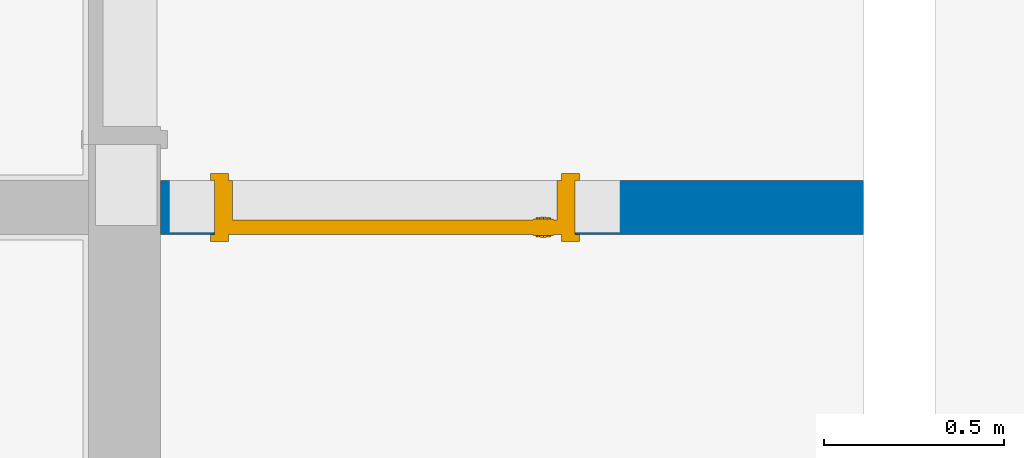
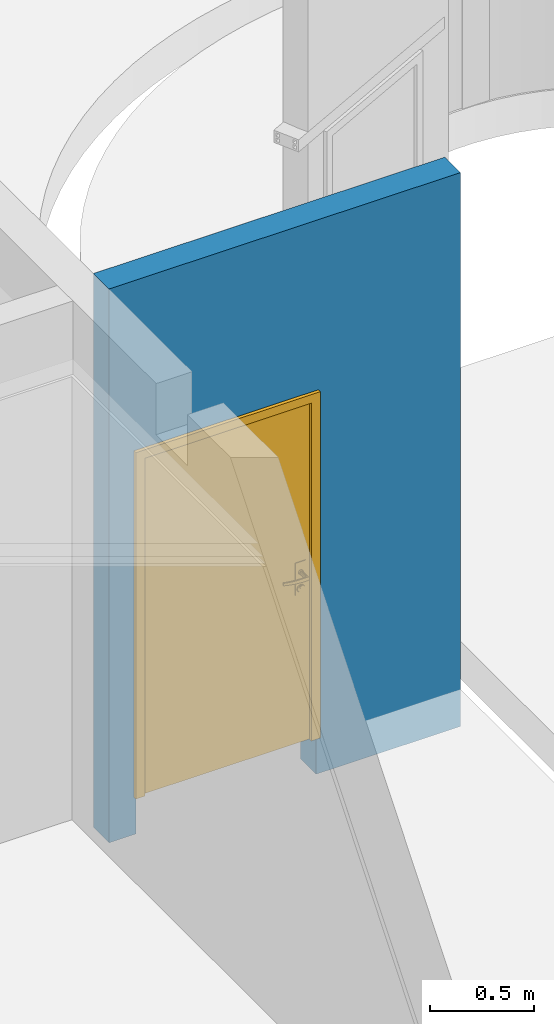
# One storey, part 14 of 21: 1 door, 1 wall, 1 opening.
"""IFC4 building model written with IfcOpenShell, lengths in millimetres."""

from ifc_helpers import new_model, entity, si_unit, converted_unit, derived_unit, direction, frame, origin_with_axes, place, context, subcontext, project, spatial, polygons, material, constituent, constituent_set, type_object, element, fill, save


model = new_model("IFC4")

# Units and contexts
model_context = context("Model", 3, precision=0.01, world=origin_with_axes(), true_north=direction((0.0, 1.0)))
body_context = subcontext(model_context, "Body", "Model", "MODEL_VIEW")
ifc_project = project(units=[si_unit("LENGTHUNIT", "METRE", prefix="MILLI"), si_unit("AREAUNIT", "SQUARE_METRE"), si_unit("VOLUMEUNIT", "CUBIC_METRE"), converted_unit("PLANEANGLEUNIT", "DEGREE", entity("IfcPlaneAngleMeasure", 0.0174532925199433), si_unit("PLANEANGLEUNIT", "RADIAN"), dimensions=[0, 0, 0, 0, 0, 0, 0]), converted_unit("TIMEUNIT", "Year", entity("IfcTimeMeasure", 31557600.0), si_unit("TIMEUNIT", "SECOND"), dimensions=[0, 0, 1, 0, 0, 0, 0]), si_unit("MASSUNIT", "GRAM", prefix="KILO"), si_unit("THERMODYNAMICTEMPERATUREUNIT", "DEGREE_CELSIUS"), si_unit("LUMINOUSINTENSITYUNIT", "LUMEN"), si_unit("ENERGYUNIT", "JOULE", prefix="MEGA"), derived_unit("THERMALCONDUCTANCEUNIT", [(si_unit("POWERUNIT", "WATT"), 1), (si_unit("LENGTHUNIT", "METRE"), -1), (si_unit("THERMODYNAMICTEMPERATUREUNIT", "KELVIN"), -1)]), derived_unit("SPECIFICHEATCAPACITYUNIT", [(si_unit("ENERGYUNIT", "JOULE"), 1), (si_unit("MASSUNIT", "GRAM", prefix="KILO"), -1), (si_unit("THERMODYNAMICTEMPERATUREUNIT", "KELVIN"), -1)]), derived_unit("MASSDENSITYUNIT", [(si_unit("MASSUNIT", "GRAM", prefix="KILO"), 1), (si_unit("VOLUMEUNIT", "CUBIC_METRE"), -1)])], contexts=[model_context])

# Site, building, storey
site_placement = place(None, origin_with_axes())
site = spatial("IfcSite", under=ifc_project, at=site_placement, Name="Exteriér", CompositionType="ELEMENT")
building_placement = place(site_placement, origin_with_axes())
building = spatial("IfcBuilding", under=site, at=building_placement, Name="Univerzitní lezecké centrum", CompositionType="ELEMENT")
storey_placement = place(building_placement, frame((0.0, 0.0, -3350.0), z_axis=(0.0, 0.0, 1.0), x_axis=(1.0, 0.0, 0.0)))
storey = spatial("IfcBuildingStorey", under=building, at=storey_placement, Name="1.PP", CompositionType="ELEMENT", Elevation=-3350.0)

# Wall, opening, door
ifc_material = material(Name="Keramické tvárnice nenosné tl. 150 mm")
ifc_constituent = constituent(ifc_material, Name="Keramické tvárnice nenosné tl. 150 mm")
ifc_constituent_set = constituent_set(constituents=[ifc_constituent], Name="!Vnitřní keramická stěna 150 mm - nenosná")
wall_type = type_object("IfcWallType", Name="!Vnitřní keramická stěna 150 mm - nenosná 150", PredefinedType="NOTDEFINED")
wall_placement = place(storey_placement, frame((-1950.408868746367, 949.9999999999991, -220.0000000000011), z_axis=(0.0, 0.0, 1.0), x_axis=(1.0, 0.0, 0.0)))
wall = element("IfcWall", 1, at=wall_placement, inside=storey, type_object=wall_type, material=ifc_constituent_set, Name="St07", PredefinedType="NOTDEFINED", context=body_context, shape_type="Tessellation", body=[
    polygons([(150.000062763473, -150.0000053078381, 0.500000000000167), (150.000062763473, -4.451118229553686e-05, 0.500000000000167), (150.0000000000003, 0.0, 220.0000000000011), (150.0000000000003, -149.9999999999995, 220.0000000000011), (150.000062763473, -4.451118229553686e-05, 0.0), (150.000062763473, -150.0000053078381, 0.0), (1149.999990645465, -4.451118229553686e-05, 0.0), (1149.999990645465, -4.451118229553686e-05, 0.500000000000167), (1150.0, 0.0, 220.0000000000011), (1150.0, 0.0, 2240.000000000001), (150.0000000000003, 0.0, 2240.000000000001), (0.0, 0.0, 0.0), (0.0, 0.0, 3250.0), (1950.16100486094, 0.0, 3250.0), (1950.16100486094, 0.0, 0.0), (25.00000000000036, 0.0, 2321.0), (25.00000000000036, 0.0, 2250.000000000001), (1275.0, 0.0, 2250.000000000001), (1275.0, 0.0, 2321.0), (150.0000000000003, -149.9999999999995, 2240.000000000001), (1149.999990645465, -150.0000053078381, 0.500000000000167), (1149.999990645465, -150.0000053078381, 0.0), (1950.16100486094, -149.9999999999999, 0.0), (1950.16100486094, -149.9999999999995, 3250.0), (0.0, -149.9999999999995, 3250.0), (0.0, -149.9999999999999, 0.0), (1150.0, -149.9999999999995, 2240.000000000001), (1150.0, -150.0000000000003, 220.0000000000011), (25.00000000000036, -144.274998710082, 2321.0), (25.00000000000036, -144.274998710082, 2250.000000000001), (25.00000000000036, -11.4424999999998, 2280.499637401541), (25.00000000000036, -11.4424999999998, 2260.499637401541), (25.00000000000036, -33.33249999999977, 2260.499637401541), (25.00000000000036, -33.33249999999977, 2280.499637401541), (25.00000000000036, -11.4424999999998, 2310.500000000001), (25.00000000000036, -11.4424999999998, 2290.5), (25.00000000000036, -33.33249999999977, 2290.5), (25.00000000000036, -33.33249999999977, 2310.500000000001), (25.00000000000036, -110.9413637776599, 2260.499637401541), (25.00000000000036, -132.8313637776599, 2260.499637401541), (25.00000000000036, -132.8313637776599, 2280.499637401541), (25.00000000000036, -110.9413637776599, 2280.499637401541), (25.00000000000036, -132.8313637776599, 2310.500000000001), (25.00000000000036, -110.9413637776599, 2310.500000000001), (25.00000000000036, -110.9413637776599, 2290.5), (25.00000000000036, -132.8313637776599, 2290.5), (1275.0, -144.274998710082, 2250.000000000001), (1275.0, -144.274998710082, 2321.0), (1275.0, -33.33250000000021, 2260.499637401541), (1275.0, -11.44250000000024, 2260.499637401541), (1275.0, -11.44250000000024, 2280.499637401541), (1275.0, -33.33250000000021, 2280.499637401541), (1275.0, -33.33250000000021, 2290.5), (1275.0, -11.44250000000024, 2290.5), (1275.0, -11.44250000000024, 2310.500000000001), (1275.0, -33.33250000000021, 2310.500000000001), (1275.0, -132.8313637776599, 2280.499637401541), (1275.0, -132.8313637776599, 2260.499637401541), (1275.0, -110.9413637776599, 2260.499637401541), (1275.0, -110.9413637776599, 2280.499637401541), (1275.0, -110.9413637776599, 2290.5), (1275.0, -110.9413637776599, 2310.500000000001), (1275.0, -132.8313637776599, 2310.500000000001), (1275.0, -132.8313637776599, 2290.5)], [[[1, 2, 3, 4]], [[5, 2, 1, 6]], [[7, 8, 9, 10, 11, 3, 2, 5, 12, 13, 14, 15], [16, 17, 18, 19]], [[20, 4, 3, 11]], [[21, 22, 23, 24, 25, 26, 6, 1, 4, 20, 27, 28]], [[5, 6, 26, 12]], [[21, 8, 7, 22]], [[8, 21, 28, 9]], [[28, 27, 10, 9]], [[27, 20, 11, 10]], [[12, 26, 25, 13]], [[24, 14, 13, 25]], [[15, 14, 24, 23]], [[22, 7, 15, 23]], [[16, 29, 30, 17], [31, 32, 33, 34], [35, 36, 37, 38], [39, 40, 41, 42], [43, 44, 45, 46]], [[47, 18, 17, 30]], [[48, 19, 18, 47], [49, 50, 51, 52], [53, 54, 55, 56], [57, 58, 59, 60], [61, 62, 63, 64]], [[48, 29, 16, 19]], [[48, 47, 30, 29]], [[51, 50, 32, 31]], [[50, 49, 33, 32]], [[49, 52, 34, 33]], [[52, 51, 31, 34]], [[55, 54, 36, 35]], [[54, 53, 37, 36]], [[53, 56, 38, 37]], [[56, 55, 35, 38]], [[59, 58, 40, 39]], [[58, 57, 41, 40]], [[57, 60, 42, 41]], [[60, 59, 39, 42]], [[63, 62, 44, 43]], [[62, 61, 45, 44]], [[61, 64, 46, 45]], [[64, 63, 43, 46]]], closed=True),
])
opening_placement = place(wall_placement, frame((650.0000000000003, 0.0, 220.0000000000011), z_axis=(0.0, 0.0, 1.0), x_axis=(1.0, 0.0, 0.0)))
opening = element("IfcOpeningElement", 2, at=opening_placement, cuts=wall, Name="D07", context=body_context, identifier="Reference", shape_type="Tessellation", body=[
    polygons([(-500.0, 1.000000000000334, 2020.0), (500.0, 1.000000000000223, 2020.0), (500.0, 1.000000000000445, 0.0), (-500.0000000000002, 1.000000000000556, 0.0), (-512.0, 1.000000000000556, 0.0), (-512.0, 1.000000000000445, 2032.0), (512.0, 1.000000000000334, 2032.0), (512.0, 1.000000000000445, 0.0), (-500.0, 0.0, 0.0), (500.0, 0.0, 0.0), (500.0, -150.0000000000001, 0.0), (500.0000000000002, -151.0000000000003, 0.0), (-500.0, -151.0, 0.0), (-500.0, -149.9999999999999, 0.0), (-512.0, 0.0, 0.0), (-512.0, 0.0, 2032.0), (512.0, 0.0, 2032.0), (512.0, 0.0, 0.0), (500.0, 0.0, 2020.0), (500.0, -150.0000000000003, 2020.0), (512.0, -150.0000000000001, 0.0), (512.0, -151.0000000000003, 0.0), (512.0, -151.0000000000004, 2032.0), (-512.0, -151.0000000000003, 2032.0), (-512.0, -151.0, 0.0), (-512.0, -149.9999999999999, 0.0), (-500.0, 0.0, 2020.0), (-500.0, -150.0000000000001, 2020.0), (-512.0, -150.0000000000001, 2032.0), (512.0, -150.0000000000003, 2032.0)], [[[1, 2, 3, 4]], [[3, 2, 1, 4, 5, 6, 7, 8]], [[9, 4, 3, 10, 11, 12, 13, 14]], [[4, 9, 15, 5]], [[15, 16, 6, 5]], [[16, 17, 7, 6]], [[17, 18, 8, 7]], [[10, 3, 8, 18]], [[10, 19, 20, 11]], [[12, 11, 21, 22]], [[13, 12, 22, 23, 24, 25]], [[14, 13, 25, 26]], [[27, 9, 14, 28]], [[27, 19, 10, 18, 17, 16, 15, 9]], [[19, 27, 28, 20]], [[11, 20, 28, 14, 26, 29, 30, 21]], [[21, 30, 23, 22]], [[30, 29, 24, 23]], [[29, 26, 25, 24]]], closed=True),
])
door_type = type_object("IfcDoorType", Name="Dveře 24", OperationType="SINGLE_SWING_RIGHT", PredefinedType="NOTDEFINED")
door_placement = place(opening_placement, frame((449.9999999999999, 0.0, 0.0), z_axis=(0.0, 0.0, 1.0), x_axis=(-1.0, 0.0, 0.0)))
door = element("IfcDoor", 3, at=door_placement, inside=storey, type_object=door_type, Name="D07", OverallHeight=2020.0, OverallWidth=1000.0, PredefinedType="NOTDEFINED", context=body_context, shape_type="Tessellation", body=[
    polygons([(-11.99999999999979, 0.0, 0.0), (-11.99999999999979, -19.00000000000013, 0.0), (-62.00000000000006, -19.00000000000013, 0.0), (-62.00000000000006, 0.0, 0.0), (-11.99999999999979, 0.0, 1982.0), (-11.99999999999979, -18.99999999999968, 1982.0), (-62.00000000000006, -18.99999999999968, 2032.0), (-62.00000000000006, 0.0, 2032.0)], [[[1, 2, 3, 4]], [[5, 6, 2, 1]], [[6, 7, 3, 2]], [[4, 3, 7, 8]], [[5, 1, 4, 8]], [[8, 7, 6, 5]]], closed=True),
    polygons([(911.9999999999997, 0.0, 1982.0), (911.9999999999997, -19.00000000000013, 1982.0), (962.0000000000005, -19.00000000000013, 2032.0), (962.0000000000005, 0.0, 2032.0), (911.9999999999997, 0.0, 0.0), (911.9999999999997, -19.00000000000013, 0.0), (962.0000000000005, -19.00000000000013, 0.0), (962.0000000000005, 0.0, 0.0)], [[[1, 2, 3, 4]], [[5, 6, 2, 1]], [[6, 7, 3, 2]], [[4, 3, 7, 8]], [[5, 1, 4, 8]], [[8, 7, 6, 5]]], closed=True),
    polygons([(-62.00000000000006, 150.0000000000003, 0.0), (-62.00000000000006, 169.0, 0.0), (-11.99999999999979, 169.0, 0.0), (-11.99999999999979, 150.0000000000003, 0.0), (-62.00000000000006, 150.0000000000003, 2032.0), (-62.00000000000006, 169.0000000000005, 2032.0), (-11.99999999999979, 169.0, 1982.0), (-11.99999999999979, 150.0000000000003, 1982.0)], [[[1, 2, 3, 4]], [[5, 6, 2, 1]], [[3, 2, 6, 7]], [[4, 3, 7, 8]], [[5, 1, 4, 8]], [[8, 7, 6, 5]]], closed=True),
    polygons([(962.0000000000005, 150.0000000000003, 2032.0), (962.0000000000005, 169.0, 2032.0), (911.9999999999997, 169.0, 1982.0), (911.9999999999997, 150.0000000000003, 1982.0), (962.0000000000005, 149.9999999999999, 0.0), (962.0000000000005, 169.0, 0.0), (911.9999999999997, 169.0, 0.0), (911.9999999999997, 149.9999999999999, 0.0)], [[[1, 2, 3, 4]], [[5, 6, 2, 1]], [[3, 2, 6, 7]], [[4, 3, 7, 8]], [[5, 1, 4, 8]], [[8, 7, 6, 5]]], closed=True),
    polygons([(0.0, 0.0, 0.0), (0.0, 110.0000000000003, 0.0), (0.0, 109.9999999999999, 1970.0), (0.0, 0.0, 1970.0), (-11.99999999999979, 150.0000000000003, 0.0), (-11.99999999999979, 110.0000000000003, 0.0), (-50.00000000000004, 0.0, 0.0), (-50.00000000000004, 150.0000000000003, 0.0), (-11.99999999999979, 109.9999999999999, 1970.0), (-11.99999999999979, 149.9999999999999, 1970.0), (-50.00000000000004, 149.9999999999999, 1970.0), (-50.00000000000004, 0.0, 1970.0)], [[[1, 2, 3, 4]], [[5, 6, 2, 1, 7, 8]], [[6, 9, 3, 2]], [[3, 9, 10, 11, 12, 4]], [[7, 1, 4, 12]], [[5, 10, 9, 6]], [[11, 8, 7, 12]], [[11, 10, 5, 8]]], closed=True),
    polygons([(911.9999999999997, 149.9999999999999, 1970.0), (911.9999999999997, 109.9999999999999, 1970.0), (900.0000000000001, 109.9999999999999, 1970.0), (900.0000000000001, 0.0, 1970.0), (950.0, 0.0, 1970.0), (950.0, 149.9999999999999, 1970.0), (911.9999999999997, 109.9999999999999, 0.0), (911.9999999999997, 149.9999999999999, 0.0), (900.0000000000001, 109.9999999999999, 0.0), (900.0000000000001, 0.0, 0.0), (950.0, 0.0, 0.0), (950.0, 149.9999999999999, 0.0)], [[[1, 2, 3, 4, 5, 6]], [[7, 2, 1, 8]], [[9, 3, 2, 7]], [[4, 3, 9, 10]], [[11, 5, 4, 10]], [[12, 6, 5, 11]], [[12, 8, 1, 6]], [[9, 7, 8, 12, 11, 10]]], closed=True),
    polygons([(-11.99999999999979, 150.0000000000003, 0.0), (911.9999999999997, 149.9999999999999, 0.0), (911.9999999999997, 109.9999999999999, 0.0), (-11.99999999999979, 110.0000000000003, 0.0), (911.9999999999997, 149.9999999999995, 1982.0), (-11.99999999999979, 149.9999999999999, 1982.0), (911.9999999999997, 109.9999999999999, 1982.0), (-11.99999999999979, 109.9999999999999, 1982.0)], [[[1, 2, 3, 4]], [[5, 2, 1, 6]], [[2, 5, 7, 3]], [[4, 3, 7, 8]], [[6, 1, 4, 8]], [[5, 6, 8, 7]]], closed=True),
    polygons([(-12.00000000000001, -18.99999999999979, 1982.0), (-62.00000000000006, -18.99999999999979, 2032.0), (-62.00000000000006, 0.0, 2032.0), (-12.00000000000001, 0.0, 1982.0), (962.0, -18.99999999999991, 2032.0), (911.9999999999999, -18.99999999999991, 1982.0), (962.0, 0.0, 2032.0), (911.9999999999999, 0.0, 1982.0)], [[[1, 2, 3, 4]], [[5, 2, 1, 6]], [[2, 5, 7, 3]], [[4, 3, 7, 8]], [[6, 1, 4, 8]], [[5, 6, 8, 7]]], closed=True),
    polygons([(-62.00000000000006, 169.0000000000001, 2032.0), (-12.00000000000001, 169.0000000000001, 1982.0), (-12.00000000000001, 150.0000000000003, 1982.0), (-62.00000000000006, 150.0000000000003, 2032.0), (962.0, 169.0, 2032.0), (911.9999999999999, 169.0, 1982.0), (911.9999999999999, 150.0, 1982.0), (962.0, 150.0, 2032.0)], [[[1, 2, 3, 4]], [[1, 5, 6, 2]], [[2, 6, 7, 3]], [[4, 3, 7, 8]], [[5, 1, 4, 8]], [[6, 5, 8, 7]]], closed=True),
    polygons([(-12.00000000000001, 149.9999999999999, 1982.0), (-12.00000000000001, 149.9999999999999, 1970.0), (-50.00000000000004, 149.9999999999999, 1970.0), (-50.00000000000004, 149.9999999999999, 2020.0), (950.0, 149.9999999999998, 2020.0), (950.0, 149.9999999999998, 1970.0), (911.9999999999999, 149.9999999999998, 1970.0), (911.9999999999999, 149.9999999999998, 1982.0), (-12.00000000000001, 110.0, 1982.0), (-12.00000000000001, 110.0, 1970.0), (0.0, 110.0, 1970.0), (0.0, 0.0, 1970.0), (-50.00000000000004, 0.0, 1970.0), (-50.00000000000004, 0.0, 2020.0), (950.0, 0.0, 2020.0), (950.0, 0.0, 1970.0), (911.9999999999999, 109.9999999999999, 1970.0), (899.9999999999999, 0.0, 1970.0), (899.9999999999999, 109.9999999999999, 1970.0), (911.9999999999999, 109.9999999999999, 1982.0)], [[[1, 2, 3, 4, 5, 6, 7, 8]], [[2, 1, 9, 10]], [[10, 11, 12, 13, 3, 2]], [[3, 13, 14, 4]], [[4, 14, 15, 5]], [[5, 15, 16, 6]], [[17, 7, 6, 16, 18, 19]], [[8, 7, 17, 20]], [[1, 8, 20, 9]], [[17, 19, 11, 10, 9, 20]], [[11, 19, 18, 12]], [[18, 16, 15, 14, 13, 12]]], closed=True),
    polygons([(9.499999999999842, 110.0, 1060.0), (9.499999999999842, 107.0, 1060.0), (66.5, 107.0, 1060.0), (66.5, 110.0, 1060.0), (9.499999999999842, 110.0, 870.0000000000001), (9.499999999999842, 107.0, 870.0000000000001), (66.5, 107.0, 870.0000000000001), (66.5, 110.0, 870.0000000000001)], [[[1, 2, 3, 4]], [[5, 6, 2, 1]], [[2, 6, 7, 3]], [[4, 3, 7, 8]], [[1, 4, 8, 5]], [[8, 7, 6, 5]]], closed=True),
    polygons([(38.00000000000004, 46.00000000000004, 989.9999999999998), (38.00000000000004, 39.00000000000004, 989.9999999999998), (32.99999999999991, 39.00000000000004, 991.3397459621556), (32.99999999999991, 46.00000000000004, 991.3397459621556), (62.99999999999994, 46.00000000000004, 989.9999999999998), (62.99999999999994, 39.00000000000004, 989.9999999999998), (62.99999999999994, 39.00000000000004, 1010.0), (38.00000000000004, 39.00000000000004, 1010.0), (32.99999999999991, 39.00000000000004, 1008.660254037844), (29.3397459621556, 39.00000000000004, 1005.0), (28.00000000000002, 39.00000000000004, 1000.0), (29.3397459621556, 39.00000000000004, 995.0000000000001), (29.3397459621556, 46.00000000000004, 995.0000000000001), (28.00000000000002, 46.00000000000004, 1000.0), (29.3397459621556, 46.00000000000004, 1005.0), (32.99999999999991, 46.00000000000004, 1008.660254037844), (38.00000000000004, 46.00000000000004, 1010.0), (62.99999999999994, 46.00000000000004, 1010.0)], [[[1, 2, 3, 4]], [[5, 6, 2, 1]], [[2, 6, 7, 8, 9, 10, 11, 12, 3]], [[4, 3, 12, 13]], [[1, 4, 13, 14, 15, 16, 17, 18, 5]], [[18, 7, 6, 5]], [[17, 8, 7, 18]], [[16, 9, 8, 17]], [[15, 10, 9, 16]], [[14, 11, 10, 15]], [[13, 12, 11, 14]]], closed=True),
    polygons([(62.99999999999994, 46.00000000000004, 1010.0), (76.4039094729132, 39.00000000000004, 1009.607300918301), (76.0982828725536, 46.00000000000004, 1009.607300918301), (62.99999999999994, 39.00000000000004, 1010.0), (103.1097165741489, 41.33645537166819, 1008.821902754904), (76.0982828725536, 46.00000000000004, 990.3926990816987), (62.99999999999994, 46.00000000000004, 989.9999999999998), (62.99999999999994, 39.00000000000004, 989.9999999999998), (76.4039094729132, 39.00000000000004, 990.3926990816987), (103.1097165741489, 41.33645537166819, 991.1780972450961), (102.1951627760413, 48.28318114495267, 1008.821902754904), (102.1951627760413, 48.28318114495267, 991.1780972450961), (129.5102645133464, 45.99158427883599, 991.9634954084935), (129.5102645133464, 45.99158427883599, 1008.036504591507), (127.993743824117, 52.83216704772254, 1008.036504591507), (127.993743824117, 52.83216704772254, 991.9634954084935), (155.4046291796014, 52.92995837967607, 992.7488935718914), (155.4046291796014, 52.92995837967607, 1007.251106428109), (153.2976832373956, 59.61233717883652, 1007.251106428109), (153.2976832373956, 59.61233717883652, 992.7488935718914), (163.4612043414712, 55.86231192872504, 992.9999999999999), (163.4612043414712, 55.86231192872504, 1007.0), (161.1705579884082, 62.47782924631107, 1007.0), (161.1705579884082, 62.47782924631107, 992.9999999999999)], [[[1, 2, 3]], [[1, 4, 2]], [[3, 2, 5]], [[1, 3, 6, 7]], [[4, 8, 9, 2]], [[2, 9, 10, 5]], [[3, 5, 11]], [[3, 11, 12, 6]], [[6, 8, 7]], [[6, 9, 8]], [[12, 10, 9]], [[5, 10, 13, 14]], [[11, 5, 14]], [[11, 15, 16, 12]], [[12, 9, 6]], [[16, 10, 12]], [[16, 13, 10]], [[14, 13, 17, 18]], [[11, 14, 15]], [[15, 19, 20, 16]], [[20, 13, 16]], [[20, 17, 13]], [[18, 17, 21, 22]], [[15, 14, 18]], [[15, 18, 19]], [[19, 23, 24, 20]], [[24, 17, 20]], [[24, 21, 17]], [[23, 22, 21, 24]], [[19, 18, 22]], [[19, 22, 23]]], closed=False),
    polygons([(48.39230484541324, 96.99999999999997, 994.0000000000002), (49.25833024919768, 107.0, 993.5), (50.99999999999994, 107.0, 1000.0), (50.00000000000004, 96.99999999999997, 1000.0), (44.00000000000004, 96.99999999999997, 989.6076951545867), (44.49999999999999, 107.0, 988.741669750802), (38.00000000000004, 107.0, 987.0000000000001), (31.49999999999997, 107.0, 988.741669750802), (26.74166975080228, 107.0, 993.5), (24.99999999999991, 107.0, 1000.0), (26.74166975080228, 107.0, 1006.5), (31.49999999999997, 107.0, 1011.258330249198), (38.00000000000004, 107.0, 1013.0), (44.49999999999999, 107.0, 1011.258330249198), (49.25833024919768, 107.0, 1006.5), (48.39230484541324, 96.99999999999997, 1006.0), (44.00000000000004, 96.99999999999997, 1010.392304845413), (38.00000000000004, 96.99999999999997, 1012.0), (32.00000000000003, 96.99999999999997, 1010.392304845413), (27.60769515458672, 96.99999999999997, 1006.0), (26.00000000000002, 96.99999999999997, 1000.0), (27.60769515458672, 96.99999999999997, 994.0000000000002), (32.00000000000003, 96.99999999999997, 989.6076951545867), (38.00000000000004, 96.99999999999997, 988.0)], [[[1, 2, 3, 4]], [[5, 6, 2, 1]], [[3, 2, 6, 7, 8, 9, 10, 11, 12, 13, 14, 15]], [[4, 3, 15, 16]], [[4, 16, 17, 18, 19, 20, 21, 22, 23, 24, 5, 1]], [[24, 7, 6, 5]], [[23, 8, 7, 24]], [[22, 9, 8, 23]], [[21, 10, 9, 22]], [[20, 11, 10, 21]], [[19, 12, 11, 20]], [[18, 13, 12, 19]], [[17, 14, 13, 18]], [[16, 15, 14, 17]]], closed=True),
    polygons([(55.32050807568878, 103.0, 895.0), (57.05255888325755, 107.0, 894.0000000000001), (60.00000000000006, 107.0, 904.9999999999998), (58.00000000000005, 103.0, 904.9999999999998), (48.00000000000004, 103.0, 887.6794919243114), (48.99999999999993, 107.0, 885.9474411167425), (38.00000000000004, 107.0, 883.0), (26.99999999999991, 107.0, 885.9474411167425), (18.94744111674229, 107.0, 894.0000000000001), (16.00000000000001, 107.0, 904.9999999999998), (18.94744111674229, 107.0, 915.9999999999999), (26.99999999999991, 107.0, 924.0525588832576), (38.00000000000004, 107.0, 927.0), (48.99999999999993, 107.0, 924.0525588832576), (57.05255888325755, 107.0, 915.9999999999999), (55.32050807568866, 103.0, 915.0), (48.00000000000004, 103.0, 922.3205080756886), (38.00000000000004, 103.0, 925.0000000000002), (28.00000000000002, 103.0, 922.3205080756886), (20.67949192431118, 103.0, 915.0), (18.00000000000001, 103.0, 904.9999999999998), (20.67949192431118, 103.0, 895.0), (28.00000000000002, 103.0, 887.6794919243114), (38.00000000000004, 103.0, 885.0000000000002)], [[[1, 2, 3, 4]], [[5, 6, 2, 1]], [[3, 2, 6, 7, 8, 9, 10, 11, 12, 13, 14, 15]], [[4, 3, 15, 16]], [[4, 16, 17, 18, 19, 20, 21, 22, 23, 24, 5, 1]], [[24, 7, 6, 5]], [[23, 8, 7, 24]], [[22, 9, 8, 23]], [[21, 10, 9, 22]], [[20, 11, 10, 21]], [[19, 12, 11, 20]], [[18, 13, 12, 19]], [[17, 14, 13, 18]], [[16, 15, 14, 17]]], closed=True),
    polygons([(42.94974746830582, 101.0, 909.0502525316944), (43.6568542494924, 103.0, 908.3431457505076), (46.00000000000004, 103.0, 914.0000000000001), (44.99999999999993, 101.0, 914.0000000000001), (38.00000000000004, 101.0, 907.0), (38.00000000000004, 103.0, 906.0000000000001), (32.34314575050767, 103.0, 908.3431457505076), (30.00000000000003, 103.0, 914.0000000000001), (32.34314575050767, 103.0, 919.6568542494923), (38.00000000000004, 103.0, 922.0000000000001), (43.6568542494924, 103.0, 919.6568542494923), (42.94974746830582, 101.0, 918.949747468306), (38.00000000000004, 101.0, 920.9999999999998), (33.05025253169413, 101.0, 918.949747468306), (30.99999999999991, 101.0, 914.0000000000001), (33.05025253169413, 101.0, 909.0502525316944)], [[[1, 2, 3, 4]], [[5, 6, 2, 1]], [[3, 2, 6, 7, 8, 9, 10, 11]], [[4, 3, 11, 12]], [[4, 12, 13, 14, 15, 16, 5, 1]], [[16, 7, 6, 5]], [[15, 8, 7, 16]], [[14, 9, 8, 15]], [[13, 10, 9, 14]], [[12, 11, 10, 13]]], closed=True),
    polygons([(38.00000000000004, 96.99999999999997, 1010.0), (38.00000000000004, 46.00000000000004, 1010.0), (42.99999999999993, 46.00000000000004, 1008.660254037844), (42.99999999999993, 96.99999999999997, 1008.660254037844), (32.99999999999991, 96.99999999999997, 1008.660254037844), (32.99999999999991, 46.00000000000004, 1008.660254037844), (29.3397459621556, 46.00000000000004, 1005.0), (28.00000000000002, 46.00000000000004, 1000.0), (29.3397459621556, 46.00000000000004, 995.0000000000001), (32.99999999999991, 46.00000000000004, 991.3397459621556), (38.00000000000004, 46.00000000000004, 989.9999999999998), (42.99999999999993, 46.00000000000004, 991.3397459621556), (46.66025403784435, 46.00000000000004, 995.0000000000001), (48.00000000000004, 46.00000000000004, 1000.0), (46.66025403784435, 46.00000000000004, 1005.0), (46.66025403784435, 96.99999999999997, 1005.0), (48.00000000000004, 96.99999999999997, 1000.0), (46.66025403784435, 96.99999999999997, 995.0000000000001), (42.99999999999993, 96.99999999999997, 991.3397459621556), (38.00000000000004, 96.99999999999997, 989.9999999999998), (32.99999999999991, 96.99999999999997, 991.3397459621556), (29.3397459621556, 96.99999999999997, 995.0000000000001), (28.00000000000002, 96.99999999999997, 1000.0), (29.3397459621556, 96.99999999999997, 1005.0)], [[[1, 2, 3, 4]], [[5, 6, 2, 1]], [[2, 6, 7, 8, 9, 10, 11, 12, 13, 14, 15, 3]], [[4, 3, 15, 16]], [[1, 4, 16, 17, 18, 19, 20, 21, 22, 23, 24, 5]], [[24, 7, 6, 5]], [[23, 8, 7, 24]], [[22, 9, 8, 23]], [[21, 10, 9, 22]], [[20, 11, 10, 21]], [[19, 12, 11, 20]], [[18, 13, 12, 19]], [[17, 14, 13, 18]], [[16, 15, 14, 17]]], closed=True),
    polygons([(9.499999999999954, 150.0, 1060.0), (66.5, 150.0, 1060.0), (66.5, 153.0, 1060.0), (9.499999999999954, 153.0, 1060.0), (9.499999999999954, 150.0, 870.0000000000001), (66.5, 150.0, 870.0000000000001), (66.5, 153.0, 870.0000000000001), (9.499999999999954, 153.0, 870.0000000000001)], [[[1, 2, 3, 4]], [[1, 5, 6, 2]], [[2, 6, 7, 3]], [[4, 3, 7, 8]], [[5, 1, 4, 8]], [[6, 5, 8, 7]]], closed=True),
    polygons([(38.00000000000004, 214.0, 989.9999999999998), (32.99999999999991, 214.0, 991.3397459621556), (32.99999999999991, 221.0, 991.3397459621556), (38.00000000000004, 221.0, 989.9999999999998), (62.99999999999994, 214.0, 989.9999999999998), (62.99999999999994, 214.0, 1010.0), (38.00000000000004, 214.0, 1010.0), (32.99999999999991, 214.0, 1008.660254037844), (29.3397459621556, 214.0, 1005.0), (28.00000000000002, 214.0, 1000.0), (29.3397459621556, 214.0, 995.0000000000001), (29.3397459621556, 221.0, 995.0000000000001), (28.00000000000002, 221.0, 1000.0), (29.3397459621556, 221.0, 1005.0), (32.99999999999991, 221.0, 1008.660254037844), (38.00000000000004, 221.0, 1010.0), (62.99999999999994, 221.0, 1010.0), (62.99999999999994, 221.0, 989.9999999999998)], [[[1, 2, 3, 4]], [[1, 5, 6, 7, 8, 9, 10, 11, 2]], [[2, 11, 12, 3]], [[4, 3, 12, 13, 14, 15, 16, 17, 18]], [[5, 1, 4, 18]], [[6, 5, 18, 17]], [[7, 6, 17, 16]], [[8, 7, 16, 15]], [[9, 8, 15, 14]], [[10, 9, 14, 13]], [[11, 10, 13, 12]]], closed=True),
    polygons([(62.99999999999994, 214.0, 1010.0), (76.0982828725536, 214.0, 1009.607300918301), (76.4039094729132, 221.0, 1009.607300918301), (62.99999999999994, 214.0, 989.9999999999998), (76.0982828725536, 214.0, 990.3926990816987), (103.1097165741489, 218.6635446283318, 1008.821902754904), (62.99999999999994, 221.0, 1010.0), (62.99999999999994, 221.0, 989.9999999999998), (102.1951627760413, 211.7168188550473, 991.1780972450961), (102.1951627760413, 211.7168188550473, 1008.821902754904), (103.1097165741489, 218.6635446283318, 991.1780972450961), (76.4039094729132, 221.0, 990.3926990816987), (127.993743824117, 207.1678329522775, 991.9634954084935), (127.993743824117, 207.1678329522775, 1008.036504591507), (129.5102645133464, 214.008415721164, 1008.036504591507), (129.5102645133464, 214.008415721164, 991.9634954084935), (153.2976832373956, 200.3876628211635, 992.7488935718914), (153.2976832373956, 200.3876628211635, 1007.251106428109), (155.4046291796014, 207.0700416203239, 1007.251106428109), (155.4046291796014, 207.0700416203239, 992.7488935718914), (161.1705579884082, 197.5221707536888, 992.9999999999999), (161.1705579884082, 197.5221707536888, 1007.0), (163.4612043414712, 204.137688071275, 1007.0), (163.4612043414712, 204.137688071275, 992.9999999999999)], [[[1, 2, 3]], [[1, 4, 5, 2]], [[2, 6, 3]], [[1, 3, 7]], [[5, 4, 8]], [[2, 5, 9, 10]], [[2, 10, 6]], [[3, 6, 11, 12]], [[7, 3, 12, 8]], [[5, 8, 12]], [[9, 5, 12]], [[10, 9, 13, 14]], [[10, 15, 6]], [[6, 15, 16, 11]], [[9, 12, 11]], [[13, 9, 11]], [[14, 13, 17, 18]], [[10, 14, 15]], [[15, 19, 20, 16]], [[13, 11, 16]], [[17, 13, 16]], [[18, 17, 21, 22]], [[14, 18, 19]], [[14, 19, 15]], [[19, 23, 24, 20]], [[17, 16, 20]], [[21, 17, 20]], [[22, 21, 24, 23]], [[18, 22, 23]], [[18, 23, 19]], [[21, 20, 24]]], closed=False),
    polygons([(48.39230484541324, 163.0, 994.0000000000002), (50.00000000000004, 163.0, 1000.0), (50.99999999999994, 153.0, 1000.0), (49.25833024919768, 153.0, 993.5), (44.00000000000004, 163.0, 989.6076951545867), (38.00000000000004, 163.0, 988.0), (32.00000000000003, 163.0, 989.6076951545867), (27.60769515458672, 163.0, 994.0000000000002), (26.00000000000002, 163.0, 1000.0), (27.60769515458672, 163.0, 1006.0), (32.00000000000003, 163.0, 1010.392304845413), (38.00000000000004, 163.0, 1012.0), (44.00000000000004, 163.0, 1010.392304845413), (48.39230484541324, 163.0, 1006.0), (49.25833024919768, 153.0, 1006.5), (44.49999999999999, 153.0, 1011.258330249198), (38.00000000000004, 153.0, 1013.0), (31.49999999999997, 153.0, 1011.258330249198), (26.74166975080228, 153.0, 1006.5), (24.99999999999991, 153.0, 1000.0), (26.74166975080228, 153.0, 993.5), (31.49999999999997, 153.0, 988.741669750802), (38.00000000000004, 153.0, 987.0000000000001), (44.49999999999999, 153.0, 988.741669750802)], [[[1, 2, 3, 4]], [[2, 1, 5, 6, 7, 8, 9, 10, 11, 12, 13, 14]], [[2, 14, 15, 3]], [[3, 15, 16, 17, 18, 19, 20, 21, 22, 23, 24, 4]], [[5, 1, 4, 24]], [[6, 5, 24, 23]], [[7, 6, 23, 22]], [[8, 7, 22, 21]], [[9, 8, 21, 20]], [[10, 9, 20, 19]], [[11, 10, 19, 18]], [[12, 11, 18, 17]], [[13, 12, 17, 16]], [[14, 13, 16, 15]]], closed=True),
    polygons([(55.32050807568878, 157.0, 895.0), (58.00000000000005, 157.0, 904.9999999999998), (60.00000000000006, 153.0, 904.9999999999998), (57.05255888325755, 153.0, 894.0000000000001), (48.00000000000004, 157.0, 887.6794919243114), (38.00000000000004, 157.0, 885.0000000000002), (28.00000000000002, 157.0, 887.6794919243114), (20.67949192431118, 157.0, 895.0), (18.00000000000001, 157.0, 904.9999999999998), (20.67949192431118, 157.0, 915.0), (28.00000000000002, 157.0, 922.3205080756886), (38.00000000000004, 157.0, 925.0000000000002), (48.00000000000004, 157.0, 922.3205080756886), (55.32050807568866, 157.0, 915.0), (57.05255888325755, 153.0, 915.9999999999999), (48.99999999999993, 153.0, 924.0525588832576), (38.00000000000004, 153.0, 927.0), (26.99999999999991, 153.0, 924.0525588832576), (18.94744111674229, 153.0, 915.9999999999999), (16.00000000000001, 153.0, 904.9999999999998), (18.94744111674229, 153.0, 894.0000000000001), (26.99999999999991, 153.0, 885.9474411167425), (38.00000000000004, 153.0, 883.0), (48.99999999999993, 153.0, 885.9474411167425)], [[[1, 2, 3, 4]], [[2, 1, 5, 6, 7, 8, 9, 10, 11, 12, 13, 14]], [[2, 14, 15, 3]], [[3, 15, 16, 17, 18, 19, 20, 21, 22, 23, 24, 4]], [[5, 1, 4, 24]], [[6, 5, 24, 23]], [[7, 6, 23, 22]], [[8, 7, 22, 21]], [[9, 8, 21, 20]], [[10, 9, 20, 19]], [[11, 10, 19, 18]], [[12, 11, 18, 17]], [[13, 12, 17, 16]], [[14, 13, 16, 15]]], closed=True),
    polygons([(42.94974746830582, 159.0, 909.0502525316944), (44.99999999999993, 159.0, 914.0000000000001), (46.00000000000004, 157.0, 914.0000000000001), (43.6568542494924, 157.0, 908.3431457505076), (38.00000000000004, 159.0, 907.0), (33.05025253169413, 159.0, 909.0502525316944), (30.99999999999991, 159.0, 914.0000000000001), (33.05025253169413, 159.0, 918.949747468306), (38.00000000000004, 159.0, 920.9999999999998), (42.94974746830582, 159.0, 918.949747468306), (43.6568542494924, 157.0, 919.6568542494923), (38.00000000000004, 157.0, 922.0000000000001), (32.34314575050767, 157.0, 919.6568542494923), (30.00000000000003, 157.0, 914.0000000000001), (32.34314575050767, 157.0, 908.3431457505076), (38.00000000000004, 157.0, 906.0000000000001)], [[[1, 2, 3, 4]], [[2, 1, 5, 6, 7, 8, 9, 10]], [[2, 10, 11, 3]], [[3, 11, 12, 13, 14, 15, 16, 4]], [[5, 1, 4, 16]], [[6, 5, 16, 15]], [[7, 6, 15, 14]], [[8, 7, 14, 13]], [[9, 8, 13, 12]], [[10, 9, 12, 11]]], closed=True),
    polygons([(38.00000000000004, 163.0, 1010.0), (42.99999999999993, 163.0, 1008.660254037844), (42.99999999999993, 214.0, 1008.660254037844), (38.00000000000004, 214.0, 1010.0), (32.99999999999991, 163.0, 1008.660254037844), (29.3397459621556, 163.0, 1005.0), (28.00000000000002, 163.0, 1000.0), (29.3397459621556, 163.0, 995.0000000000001), (32.99999999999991, 163.0, 991.3397459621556), (38.00000000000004, 163.0, 989.9999999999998), (42.99999999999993, 163.0, 991.3397459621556), (46.66025403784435, 163.0, 995.0000000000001), (48.00000000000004, 163.0, 1000.0), (46.66025403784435, 163.0, 1005.0), (46.66025403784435, 214.0, 1005.0), (48.00000000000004, 214.0, 1000.0), (46.66025403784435, 214.0, 995.0000000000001), (42.99999999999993, 214.0, 991.3397459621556), (38.00000000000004, 214.0, 989.9999999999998), (32.99999999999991, 214.0, 991.3397459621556), (29.3397459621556, 214.0, 995.0000000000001), (28.00000000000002, 214.0, 1000.0), (29.3397459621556, 214.0, 1005.0), (32.99999999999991, 214.0, 1008.660254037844)], [[[1, 2, 3, 4]], [[1, 5, 6, 7, 8, 9, 10, 11, 12, 13, 14, 2]], [[2, 14, 15, 3]], [[4, 3, 15, 16, 17, 18, 19, 20, 21, 22, 23, 24]], [[5, 1, 4, 24]], [[6, 5, 24, 23]], [[7, 6, 23, 22]], [[8, 7, 22, 21]], [[9, 8, 21, 20]], [[10, 9, 20, 19]], [[11, 10, 19, 18]], [[12, 11, 18, 17]], [[13, 12, 17, 16]], [[14, 13, 16, 15]]], closed=True),
])
fill(opening, door)

save(model, "model.ifc")
